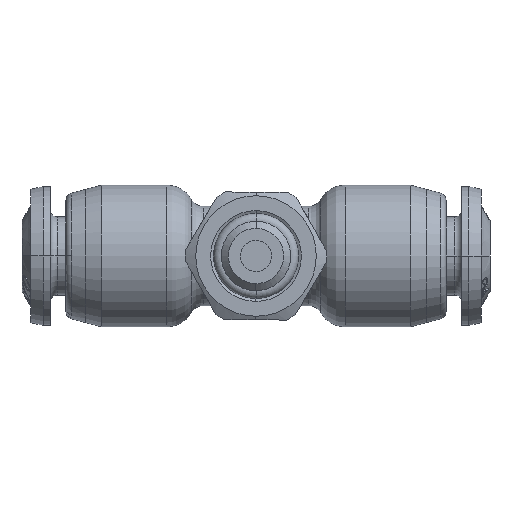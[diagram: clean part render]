
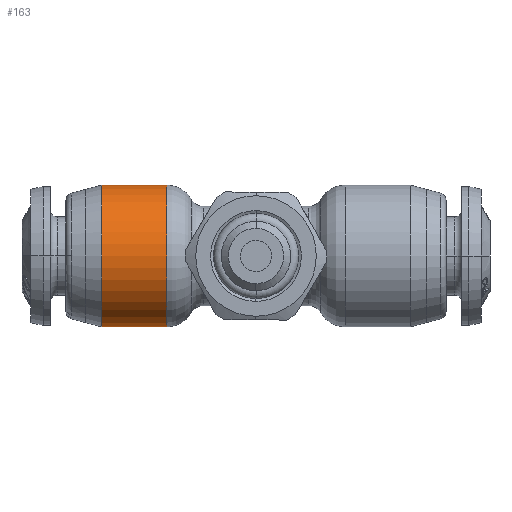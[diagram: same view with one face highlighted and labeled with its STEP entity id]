
A CAD part, front view. The second image highlights one B-rep face of the part: STEP entity #163.
In plain terms, the highlighted cylindrical face has radius 5 mm (diameter 10 mm), a partial arc.
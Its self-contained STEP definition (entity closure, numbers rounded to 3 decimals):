
#163 = ADVANCED_FACE ( 'NONE', ( #16965 ), #16981, .T. ) ;
#6175 = EDGE_LOOP ( 'NONE', ( #15208, #15209, #15210, #15211 ) ) ;
#6188 = VERTEX_POINT ( 'NONE', #21039 ) ;
#6189 = VERTEX_POINT ( 'NONE', #21040 ) ;
#6194 = VERTEX_POINT ( 'NONE', #21045 ) ;
#6196 = VERTEX_POINT ( 'NONE', #21047 ) ;
#8156 = AXIS2_PLACEMENT_3D ( 'NONE', #23017, #23018, #23026 ) ;
#9581 = CARTESIAN_POINT ( 'NONE',  ( 0., 0., -5. ) ) ;
#9582 = DIRECTION ( 'NONE',  ( 1., 0., 0. ) ) ;
#9586 = DIRECTION ( 'NONE',  ( 1., 0., 0. ) ) ;
#9587 = CARTESIAN_POINT ( 'NONE',  ( -10.88, 0., 0. ) ) ;
#9588 = DIRECTION ( 'NONE',  ( -1., 0., 0. ) ) ;
#9589 = DIRECTION ( 'NONE',  ( 0., 0., 1. ) ) ;
#9590 = CARTESIAN_POINT ( 'NONE',  ( 0., 0., 5. ) ) ;
#9591 = CARTESIAN_POINT ( 'NONE',  ( -6.298, 0., 0. ) ) ;
#9592 = DIRECTION ( 'NONE',  ( -1., 0., 0. ) ) ;
#9593 = DIRECTION ( 'NONE',  ( 0., 0., 1. ) ) ;
#10394 = EDGE_CURVE ( 'NONE', #6196, #6194, #16497, .T. ) ;
#10395 = EDGE_CURVE ( 'NONE', #6196, #6189, #16499, .T. ) ;
#10396 = EDGE_CURVE ( 'NONE', #6189, #6188, #16488, .T. ) ;
#10397 = EDGE_CURVE ( 'NONE', #6194, #6188, #16502, .T. ) ;
#14631 = AXIS2_PLACEMENT_3D ( 'NONE', #9587, #9588, #9589 ) ;
#14632 = AXIS2_PLACEMENT_3D ( 'NONE', #9591, #9592, #9593 ) ;
#15208 = ORIENTED_EDGE ( 'NONE', *, *, #10394, .F. ) ;
#15209 = ORIENTED_EDGE ( 'NONE', *, *, #10395, .T. ) ;
#15210 = ORIENTED_EDGE ( 'NONE', *, *, #10396, .T. ) ;
#15211 = ORIENTED_EDGE ( 'NONE', *, *, #10397, .F. ) ;
#16488 = CIRCLE ( 'NONE', #14632, 5. ) ;
#16497 = CIRCLE ( 'NONE', #14631, 5. ) ;
#16499 = LINE ( 'NONE', #9581, #16501 ) ;
#16501 = VECTOR ( 'NONE', #9582, 1000. ) ;
#16502 = LINE ( 'NONE', #9590, #16504 ) ;
#16504 = VECTOR ( 'NONE', #9586, 1000. ) ;
#16965 = FACE_OUTER_BOUND ( 'NONE', #6175, .T. ) ;
#16981 = CYLINDRICAL_SURFACE ( 'NONE', #8156, 5. ) ;
#21039 = CARTESIAN_POINT ( 'NONE',  ( -6.298, 0., 5. ) ) ;
#21040 = CARTESIAN_POINT ( 'NONE',  ( -6.298, 0., -5. ) ) ;
#21045 = CARTESIAN_POINT ( 'NONE',  ( -10.88, 0., 5. ) ) ;
#21047 = CARTESIAN_POINT ( 'NONE',  ( -10.88, 0., -5. ) ) ;
#23017 = CARTESIAN_POINT ( 'NONE',  ( 0., 0., 0. ) ) ;
#23018 = DIRECTION ( 'NONE',  ( 1., 0., 0. ) ) ;
#23026 = DIRECTION ( 'NONE',  ( 0., 0., 1. ) ) ;
